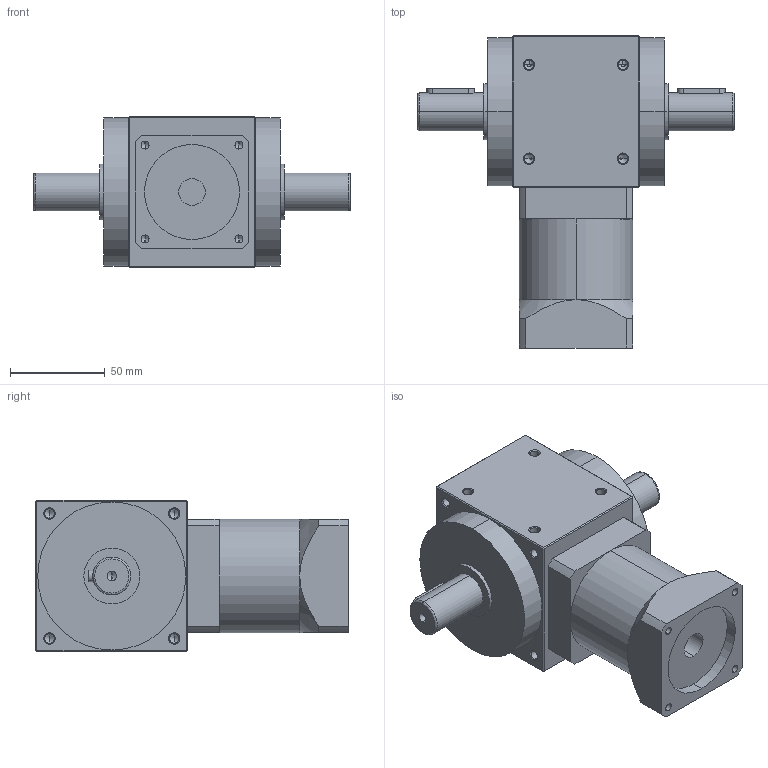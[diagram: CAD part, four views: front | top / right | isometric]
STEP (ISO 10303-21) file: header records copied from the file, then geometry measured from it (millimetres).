
FILE_DESCRIPTION (( 'STEP AP214' ), '1' );
FILE_NAME ('RXW080AS-002-2P--19-70-90-m6.STEP', '2020-11-23T01:46:36', ( '微软用户' ), ( '微软中国' ), 'SwSTEP 2.0', 'SolidWorks 2014', '' );
FILE_SCHEMA (( 'AUTOMOTIVE_DESIGN' ));
Length unit declared in the file: millimetre
Products named in the file (2): RXW080AS-002-2P--19-70-90-m6
Bounding box: 167 x 164.5 x 80 mm (x, y, z)
Volume: 818948.5 mm3; surface area: 79381.2 mm2
Topology: 2 solids, 2 shells, 249 faces, 560 edges, 308 vertices
Faces by surface type: cone 106, cylinder 84, plane 55, bspline 4
Entity records: 9090 total; most frequent: CARTESIAN_POINT 1477, DIRECTION 1204, ORIENTED_EDGE 1048, EDGE_CURVE 524, AXIS2_PLACEMENT_3D 471, VERTEX_POINT 308, EDGE_LOOP 286, LINE 262
